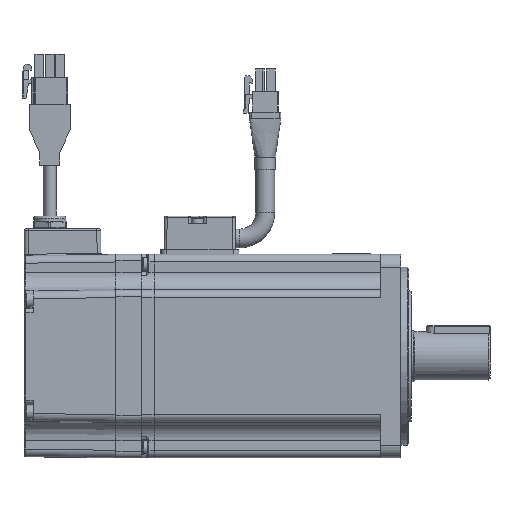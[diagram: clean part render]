
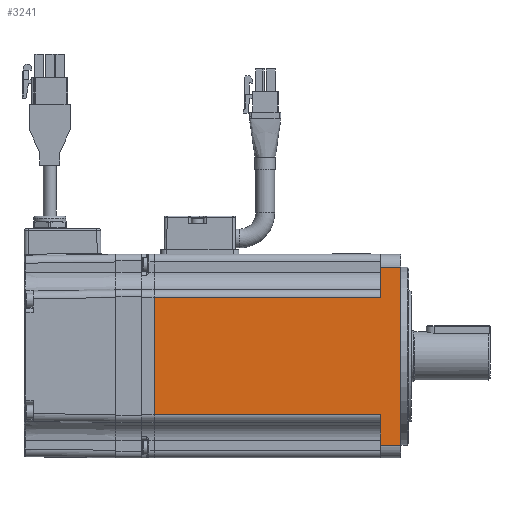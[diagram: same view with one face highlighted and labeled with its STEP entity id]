
A CAD part, left-side view. The second image highlights one B-rep face of the part: STEP entity #3241.
In plain terms, the highlighted planar face has unit normal (-1, 0, 0).
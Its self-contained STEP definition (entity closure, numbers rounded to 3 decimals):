
#3241 = ADVANCED_FACE( '', ( #7591 ), #7592, .T. );
#7591 = FACE_OUTER_BOUND( '', #14364, .T. );
#7592 = PLANE( '', #14365 );
#14364 = EDGE_LOOP( '', ( #27093, #27094, #27095, #27096, #27097, #27098, #27099, #27100 ) );
#14365 = AXIS2_PLACEMENT_3D( '', #27101, #27102, #27103 );
#27093 = ORIENTED_EDGE( '', *, *, #44269, .F. );
#27094 = ORIENTED_EDGE( '', *, *, #44270, .T. );
#27095 = ORIENTED_EDGE( '', *, *, #44271, .F. );
#27096 = ORIENTED_EDGE( '', *, *, #44272, .T. );
#27097 = ORIENTED_EDGE( '', *, *, #44273, .F. );
#27098 = ORIENTED_EDGE( '', *, *, #44274, .T. );
#27099 = ORIENTED_EDGE( '', *, *, #44275, .F. );
#27100 = ORIENTED_EDGE( '', *, *, #44276, .T. );
#27101 = CARTESIAN_POINT( '', ( -40., 197.846, 40. ) );
#27102 = DIRECTION( '', ( -1., 0., 0. ) );
#27103 = DIRECTION( '', ( 0., 0., 1. ) );
#44269 = EDGE_CURVE( '', #51547, #51548, #51549, .T. );
#44270 = EDGE_CURVE( '', #51547, #51550, #51551, .F. );
#44271 = EDGE_CURVE( '', #51552, #51550, #51553, .T. );
#44272 = EDGE_CURVE( '', #51552, #51554, #51555, .T. );
#44273 = EDGE_CURVE( '', #51556, #51554, #51557, .T. );
#44274 = EDGE_CURVE( '', #51556, #51558, #51559, .F. );
#44275 = EDGE_CURVE( '', #51560, #51558, #51561, .T. );
#44276 = EDGE_CURVE( '', #51560, #51548, #51562, .T. );
#51547 = VERTEX_POINT( '', #61438 );
#51548 = VERTEX_POINT( '', #61439 );
#51549 = LINE( '', #61440, #61441 );
#51550 = VERTEX_POINT( '', #61442 );
#51551 = LINE( '', #61443, #61444 );
#51552 = VERTEX_POINT( '', #61445 );
#51553 = LINE( '', #61446, #61447 );
#51554 = VERTEX_POINT( '', #61448 );
#51555 = LINE( '', #61449, #61450 );
#51556 = VERTEX_POINT( '', #61451 );
#51557 = LINE( '', #61452, #61453 );
#51558 = VERTEX_POINT( '', #61454 );
#51559 = LINE( '', #61455, #61456 );
#51560 = VERTEX_POINT( '', #61457 );
#51561 = LINE( '', #61458, #61459 );
#51562 = LINE( '', #61460, #61461 );
#61438 = CARTESIAN_POINT( '', ( -40., 97.81, -23. ) );
#61439 = CARTESIAN_POINT( '', ( -40., 97.81, 23. ) );
#61440 = CARTESIAN_POINT( '', ( -40., 97.81, 40. ) );
#61441 = VECTOR( '', #79592, 1000. );
#61442 = CARTESIAN_POINT( '', ( -40., 8.81, -23. ) );
#61443 = CARTESIAN_POINT( '', ( -40., 197.846, -23. ) );
#61444 = VECTOR( '', #79593, 1000. );
#61445 = CARTESIAN_POINT( '', ( -40., 8.81, -35. ) );
#61446 = CARTESIAN_POINT( '', ( -40., 8.81, 40. ) );
#61447 = VECTOR( '', #79594, 1000. );
#61448 = CARTESIAN_POINT( '', ( -40., 0.81, -35. ) );
#61449 = CARTESIAN_POINT( '', ( -40., 197.846, -35. ) );
#61450 = VECTOR( '', #79595, 1000. );
#61451 = CARTESIAN_POINT( '', ( -40., 0.81, 35. ) );
#61452 = CARTESIAN_POINT( '', ( -40., 0.81, 40. ) );
#61453 = VECTOR( '', #79596, 1000. );
#61454 = CARTESIAN_POINT( '', ( -40., 8.81, 35. ) );
#61455 = CARTESIAN_POINT( '', ( -40., 197.846, 35. ) );
#61456 = VECTOR( '', #79597, 1000. );
#61457 = CARTESIAN_POINT( '', ( -40., 8.81, 23. ) );
#61458 = CARTESIAN_POINT( '', ( -40., 8.81, 40. ) );
#61459 = VECTOR( '', #79598, 1000. );
#61460 = CARTESIAN_POINT( '', ( -40., 197.846, 23. ) );
#61461 = VECTOR( '', #79599, 1000. );
#79592 = DIRECTION( '', ( 0., 0., 1. ) );
#79593 = DIRECTION( '', ( 0., 1., 0. ) );
#79594 = DIRECTION( '', ( 0., 0., 1. ) );
#79595 = DIRECTION( '', ( 0., -1., 0. ) );
#79596 = DIRECTION( '', ( 0., 0., -1. ) );
#79597 = DIRECTION( '', ( 0., -1., 0. ) );
#79598 = DIRECTION( '', ( 0., 0., 1. ) );
#79599 = DIRECTION( '', ( 0., 1., 0. ) );
